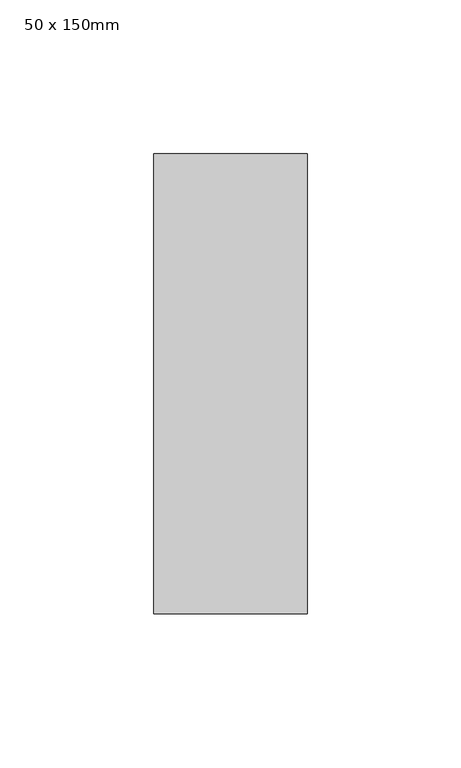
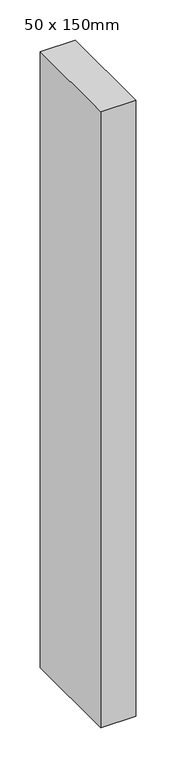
"""IFC4 building model written with IfcOpenShell, lengths in millimetres: member geometry, 矩形豎框 : 50 x 150mm."""

from ifc_helpers import new_model, si_unit, frame, origin, place, context, project, spatial, polyline, outline, extrude, source, transform, mapped, element, save


def member_50_x_150mm_cac3cb24(model_context):
    return source(origin(), model_context, "Body", "SweptSolid", [
        extrude(outline(polyline([(25.0, 75.0), (25.0, -75.0), (-25.0, -75.0), (-25.0, 75.0), (25.0, 75.0)])), frame((0.0, 0.0, -933.1595946), z_axis=(0.0, 0.0, 1.0), x_axis=(1.0, 0.0, 0.0)), (0.0, 0.0, 1.0), 933.1595946),
    ])


if __name__ == "__main__":
    model = new_model("IFC4")
    model_context = context("Model", 3, world=origin())
    ifc_project = project(units=[si_unit("LENGTHUNIT", "METRE", prefix="MILLI")], contexts=[model_context])
    site = spatial("IfcSite", under=ifc_project)
    building = spatial("IfcBuilding", under=site)
    placement = place(None, origin())
    member_50_x_150mm_shape = member_50_x_150mm_cac3cb24(model_context)
    element("IfcMember", 1, ObjectType="矩形豎框 : 50 x 150mm", at=placement, inside=building, context=model_context, shape_type="MappedRepresentation", body=[
        mapped(member_50_x_150mm_shape, transform((0.0, 0.0, 0.0), x_axis=(1.0, 0.0, 0.0), y_axis=(0.0, 1.0, 0.0), z_axis=(0.0, 0.0, 1.0))),
    ])
    save(model, "model.ifc")
